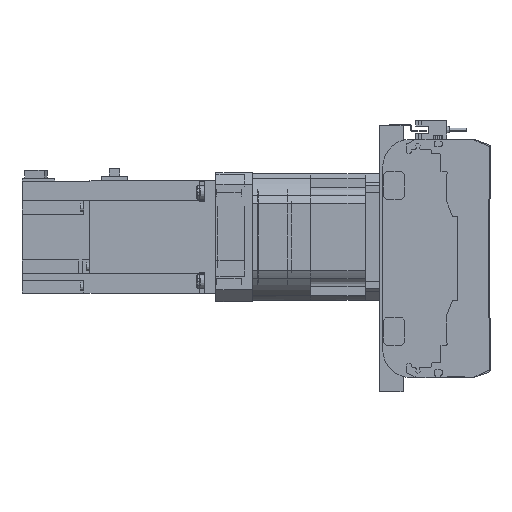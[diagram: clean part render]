
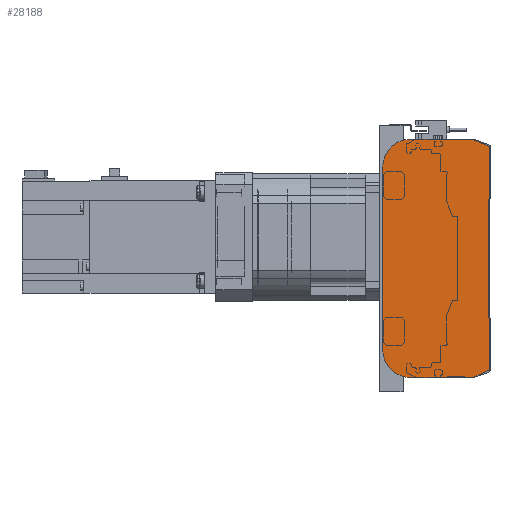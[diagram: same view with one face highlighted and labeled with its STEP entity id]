
A CAD part, left-side view. The second image highlights one B-rep face of the part: STEP entity #28188.
In plain terms, the highlighted planar face has unit normal (-1, 0, 0).
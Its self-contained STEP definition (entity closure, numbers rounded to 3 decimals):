
#2248=CIRCLE('',#30825,2.);
#2249=CIRCLE('',#30828,2.);
#2250=CIRCLE('',#30831,20.);
#2251=CIRCLE('',#30834,20.);
#8057=ORIENTED_EDGE('',*,*,#13625,.F.);
#8058=ORIENTED_EDGE('',*,*,#13703,.F.);
#8059=ORIENTED_EDGE('',*,*,#13701,.F.);
#8060=ORIENTED_EDGE('',*,*,#13699,.F.);
#8061=ORIENTED_EDGE('',*,*,#13367,.F.);
#8062=ORIENTED_EDGE('',*,*,#13698,.F.);
#8063=ORIENTED_EDGE('',*,*,#13696,.F.);
#8064=ORIENTED_EDGE('',*,*,#13694,.F.);
#8065=ORIENTED_EDGE('',*,*,#13692,.F.);
#8066=ORIENTED_EDGE('',*,*,#13690,.F.);
#13367=EDGE_CURVE('',#16479,#16480,#18847,.T.);
#13625=EDGE_CURVE('',#16551,#16552,#18961,.T.);
#13690=EDGE_CURVE('',#16552,#16593,#19006,.T.);
#13692=EDGE_CURVE('',#16593,#16594,#2248,.T.);
#13694=EDGE_CURVE('',#16594,#16595,#19009,.T.);
#13696=EDGE_CURVE('',#16595,#16596,#2249,.T.);
#13698=EDGE_CURVE('',#16596,#16479,#19012,.T.);
#13699=EDGE_CURVE('',#16480,#16597,#2250,.T.);
#13701=EDGE_CURVE('',#16597,#16598,#19014,.T.);
#13703=EDGE_CURVE('',#16598,#16551,#2251,.T.);
#16479=VERTEX_POINT('',#47867);
#16480=VERTEX_POINT('',#47869);
#16551=VERTEX_POINT('',#48250);
#16552=VERTEX_POINT('',#48252);
#16593=VERTEX_POINT('',#48382);
#16594=VERTEX_POINT('',#48386);
#16595=VERTEX_POINT('',#48390);
#16596=VERTEX_POINT('',#48394);
#16597=VERTEX_POINT('',#48400);
#16598=VERTEX_POINT('',#48404);
#18847=LINE('',#47868,#21122);
#18961=LINE('',#48251,#21236);
#19006=LINE('',#48381,#21281);
#19009=LINE('',#48389,#21284);
#19012=LINE('',#48397,#21287);
#19014=LINE('',#48403,#21289);
#21122=VECTOR('',#37281,1000.);
#21236=VECTOR('',#37789,1000.);
#21281=VECTOR('',#37922,1000.);
#21284=VECTOR('',#37931,1000.);
#21287=VECTOR('',#37940,1000.);
#21289=VECTOR('',#37948,1000.);
#23088=EDGE_LOOP('',(#8057,#8058,#8059,#8060,#8061,#8062,#8063,#8064,#8065,
#8066));
#25419=FACE_BOUND('',#23088,.T.);
#26822=PLANE('',#30836);
#28188=ADVANCED_FACE('',(#25419),#26822,.F.);
#30825=AXIS2_PLACEMENT_3D('',#48385,#37926,#37927);
#30828=AXIS2_PLACEMENT_3D('',#48393,#37935,#37936);
#30831=AXIS2_PLACEMENT_3D('',#48399,#37943,#37944);
#30834=AXIS2_PLACEMENT_3D('',#48407,#37952,#37953);
#30836=AXIS2_PLACEMENT_3D('',#48409,#37956,#37957);
#37281=DIRECTION('',(0.,1.,0.));
#37789=DIRECTION('',(0.,-1.,0.));
#37922=DIRECTION('',(0.,-0.913,-0.408));
#37926=DIRECTION('',(1.,0.,0.));
#37927=DIRECTION('',(0.,0.,-1.));
#37931=DIRECTION('',(0.,0.,-1.));
#37935=DIRECTION('',(1.,0.,0.));
#37936=DIRECTION('',(0.,0.,-1.));
#37940=DIRECTION('',(0.,0.913,-0.408));
#37943=DIRECTION('',(1.,0.,0.));
#37944=DIRECTION('',(0.,0.,-1.));
#37948=DIRECTION('',(0.,0.,1.));
#37952=DIRECTION('',(1.,0.,0.));
#37953=DIRECTION('',(0.,0.,-1.));
#37956=DIRECTION('',(1.,0.,0.));
#37957=DIRECTION('',(0.,0.,-1.));
#47867=CARTESIAN_POINT('',(0.,12.33,-85.));
#47868=CARTESIAN_POINT('',(0.,12.33,-85.));
#47869=CARTESIAN_POINT('',(0.,56.5,-85.));
#48250=CARTESIAN_POINT('',(0.,56.5,85.));
#48251=CARTESIAN_POINT('',(0.,56.5,85.));
#48252=CARTESIAN_POINT('',(0.,12.33,85.));
#48381=CARTESIAN_POINT('',(0.,12.33,85.));
#48382=CARTESIAN_POINT('',(0.,1.684,80.239));
#48385=CARTESIAN_POINT('',(0.,2.5,78.413));
#48386=CARTESIAN_POINT('',(0.,0.5,78.413));
#48389=CARTESIAN_POINT('',(0.,0.5,78.413));
#48390=CARTESIAN_POINT('',(0.,0.5,-78.413));
#48393=CARTESIAN_POINT('',(0.,2.5,-78.413));
#48394=CARTESIAN_POINT('',(0.,1.684,-80.239));
#48397=CARTESIAN_POINT('',(0.,1.684,-80.239));
#48399=CARTESIAN_POINT('',(0.,56.5,-65.));
#48400=CARTESIAN_POINT('',(0.,76.5,-65.));
#48403=CARTESIAN_POINT('',(0.,76.5,-65.));
#48404=CARTESIAN_POINT('',(0.,76.5,65.));
#48407=CARTESIAN_POINT('',(0.,56.5,65.));
#48409=CARTESIAN_POINT('',(0.,2.5,78.413));
